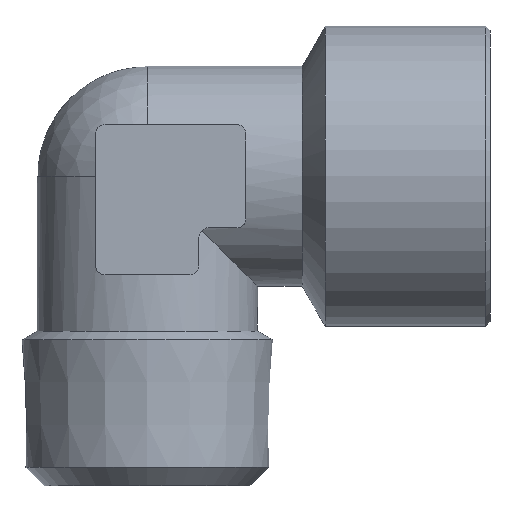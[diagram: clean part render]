
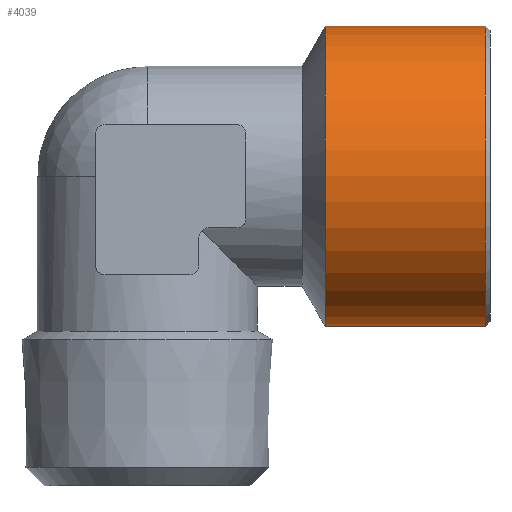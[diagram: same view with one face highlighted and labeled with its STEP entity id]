
A CAD part, front view. The second image highlights one B-rep face of the part: STEP entity #4039.
In plain terms, the highlighted cylindrical face has radius 16 mm (diameter 32 mm), a full revolution.
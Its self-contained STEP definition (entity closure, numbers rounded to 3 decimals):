
#1167=CYLINDRICAL_SURFACE('',#3938,16.);
#1197=ORIENTED_EDGE('',*,*,#1515,.F.);
#1198=ORIENTED_EDGE('',*,*,#1514,.T.);
#1401=CIRCLE('',#3937,16.);
#1402=CIRCLE('',#3939,16.);
#1440=VERTEX_POINT('',#1963);
#1441=VERTEX_POINT('',#1966);
#1514=EDGE_CURVE('',#1440,#1440,#1401,.T.);
#1515=EDGE_CURVE('',#1441,#1441,#1402,.T.);
#1619=EDGE_LOOP('',(#1197));
#1620=EDGE_LOOP('',(#1198));
#1680=FACE_BOUND('',#1619,.T.);
#1681=FACE_BOUND('',#1620,.T.);
#1745=DIRECTION('',(-1.,0.,0.));
#1746=DIRECTION('',(0.,0.,16.));
#1747=DIRECTION('',(-1.,0.,0.));
#1748=DIRECTION('',(0.,1.,0.));
#1749=DIRECTION('',(-1.,0.,0.));
#1750=DIRECTION('',(0.,0.,16.));
#1963=CARTESIAN_POINT('',(62.808,52.046,16.));
#1964=CARTESIAN_POINT('',(62.808,52.046,0.));
#1965=CARTESIAN_POINT('',(62.808,52.046,0.));
#1966=CARTESIAN_POINT('',(45.761,52.046,16.));
#1967=CARTESIAN_POINT('',(45.761,52.046,0.));
#3937=AXIS2_PLACEMENT_3D('',#1964,#1745,#1746);
#3938=AXIS2_PLACEMENT_3D('',#1965,#1747,#1748);
#3939=AXIS2_PLACEMENT_3D('',#1967,#1749,#1750);
#4039=ADVANCED_FACE('',(#1680,#1681),#1167,.T.);
